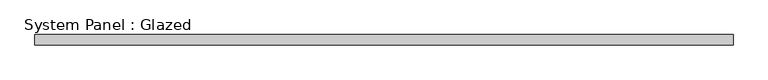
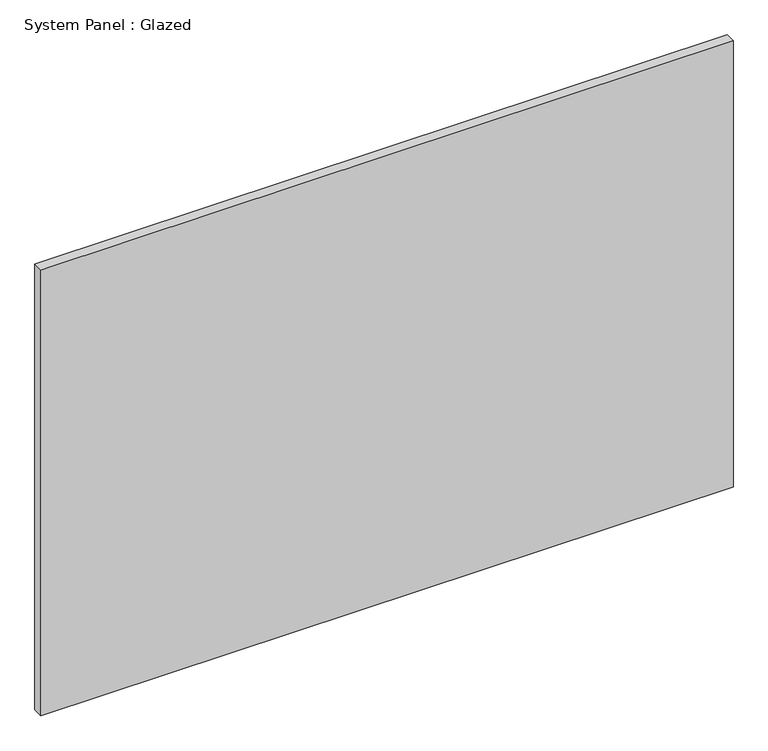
"""IFC4 building model written with IfcOpenShell, lengths in millimetres: plate geometry, System Panel : Glazed."""

import ifcopenshell
import ifcopenshell.guid

model = None  # the IFC model being written
_history = None  # IfcOwnerHistory: only IFC2X3 demands one
_inside = {}  # id of a spatial element -> (the spatial element, [elements in it])
_under = {}  # id of a project, library or spatial element -> (it, [spatial elements below it])
_declared = {}  # id of a project -> (the project, [libraries it declares])
_typed = {}  # id of a type object -> (the type object, [elements of that type])
_made_of = {}  # id of a material, layer set ... -> (it, [elements and type objects made of it])


def new_model(schema):
    """Start an empty IFC model of exactly this schema.

    Asked for "IFC4X3", IfcOpenShell would pick the latest addendum, in which some entities
    have other attributes; the version numbers below select the first issue.
    IFC2X3 requires an IfcOwnerHistory on every rooted entity: one is made here for all.
    """
    global model, _history
    if schema == "IFC4X3":
        model = ifcopenshell.file(schema_version=(4, 3, 0, 0))
    else:
        model = ifcopenshell.file(schema=schema)
    _inside.clear()
    _under.clear()
    _declared.clear()
    _typed.clear()
    _made_of.clear()
    _history = None
    if model.schema == "IFC2X3":
        org = make("IfcOrganization", Name="unknown")
        user = make(
            "IfcPersonAndOrganization",
            ThePerson=make("IfcPerson", FamilyName="unknown"),
            TheOrganization=org,
        )
        app = make(
            "IfcApplication",
            ApplicationDeveloper=org,
            Version="unknown",
            ApplicationFullName="unknown",
            ApplicationIdentifier="unknown",
        )
        _history = make(
            "IfcOwnerHistory",
            OwningUser=user,
            OwningApplication=app,
            ChangeAction="ADDED",
            CreationDate=0,
        )
    return model


def make(cls, **values):
    """One entity of the class cls with the attributes given. An attribute that is None is left unset."""
    return model.create_entity(
        cls, **{name: value for name, value in values.items() if value is not None}
    )


def rooted(cls, **values):
    """An entity with a GlobalId (a new one), such as an element, a storey or a relation."""
    return make(cls, GlobalId=ifcopenshell.guid.new(), OwnerHistory=_history, **values)


def si_unit(unit_type, name, prefix=None):
    """IfcSIUnit, for example si_unit("LENGTHUNIT", "METRE", prefix="MILLI")."""
    return make("IfcSIUnit", UnitType=unit_type, Prefix=prefix, Name=name)


def assignment(units):
    """IfcUnitAssignment: the units of a project."""
    return None if units is None else make("IfcUnitAssignment", Units=units)


def point(xyz):
    """IfcCartesianPoint."""
    return None if xyz is None else make("IfcCartesianPoint", Coordinates=xyz)


def direction(xyz):
    """IfcDirection."""
    return None if xyz is None else make("IfcDirection", DirectionRatios=xyz)


def frame(location, z_axis=None, x_axis=None):
    """IfcAxis2Placement3D, a coordinate frame: its origin and axes. An axis left out is left unset."""
    return make(
        "IfcAxis2Placement3D",
        Location=point(location),
        Axis=direction(z_axis),
        RefDirection=direction(x_axis),
    )


def origin():
    """The frame at (0, 0, 0) with its axes left unset."""
    return frame((0.0, 0.0, 0.0))


def origin_with_axes():
    """The frame at (0, 0, 0) with the z axis (0, 0, 1) and the x axis (1, 0, 0) written out."""
    return frame((0.0, 0.0, 0.0), z_axis=(0.0, 0.0, 1.0), x_axis=(1.0, 0.0, 0.0))


def place(relative_to, where):
    """IfcLocalPlacement: puts the frame where relative to a parent placement (None: the world)."""
    return make(
        "IfcLocalPlacement", PlacementRelTo=relative_to, RelativePlacement=where
    )


def context(
    kind, dimensions, precision=None, world=None, true_north=None, identifier=None
):
    """IfcGeometricRepresentationContext, for example the 3D "Model" context."""
    return make(
        "IfcGeometricRepresentationContext",
        ContextIdentifier=identifier,
        ContextType=kind,
        CoordinateSpaceDimension=dimensions,
        Precision=precision,
        WorldCoordinateSystem=world,
        TrueNorth=true_north,
    )


def project(units=None, contexts=None):
    """IfcProject with its units and contexts."""
    return rooted(
        "IfcProject",
        Name="project",
        RepresentationContexts=contexts,
        UnitsInContext=assignment(units),
    )


def spatial(cls, under=None, at=None, **own):
    """A site, building, storey or space (cls), placed at a placement, below another one or the project."""
    s = rooted(cls, ObjectPlacement=at, **own)
    if under is not None:
        _under.setdefault(under.id(), (under, []))[1].append(s)
    return s


def polyline(points):
    """IfcPolyline through the points."""
    return make("IfcPolyline", Points=[point(p) for p in points])


def outline(outer, holes=None, kind="AREA"):
    """IfcArbitraryClosedProfileDef: a profile drawn as a closed curve; with holes, ...WithVoids."""
    if holes is None:
        return make("IfcArbitraryClosedProfileDef", ProfileType=kind, OuterCurve=outer)
    return make(
        "IfcArbitraryProfileDefWithVoids",
        ProfileType=kind,
        OuterCurve=outer,
        InnerCurves=holes,
    )


def extrude(swept, where, along, depth):
    """IfcExtrudedAreaSolid: the profile swept, set in the frame where, extruded along a direction by depth."""
    return make(
        "IfcExtrudedAreaSolid",
        SweptArea=swept,
        Position=where,
        ExtrudedDirection=direction(along),
        Depth=depth,
    )


def shape(context_of_items, identifier, shape_type, items):
    """IfcShapeRepresentation: the items that make up one representation, for example the "Body"."""
    return make(
        "IfcShapeRepresentation",
        ContextOfItems=context_of_items,
        RepresentationIdentifier=identifier,
        RepresentationType=shape_type,
        Items=items,
    )


def source(mapping_origin, context_of_items, identifier, shape_type, items):
    """IfcRepresentationMap: a shape defined once, which mapped items show again and again."""
    return make(
        "IfcRepresentationMap",
        MappingOrigin=mapping_origin,
        MappedRepresentation=shape(context_of_items, identifier, shape_type, items),
    )


def transform(
    local_origin,
    x_axis=None,
    y_axis=None,
    z_axis=None,
    scale=None,
    scale2=None,
    scale3=None,
    uniform=True,
):
    """IfcCartesianTransformationOperator3D, or its non-uniform kind. x_axis, y_axis, z_axis: its Axis1, 2, 3."""
    if uniform:
        return make(
            "IfcCartesianTransformationOperator3D",
            Axis1=direction(x_axis),
            Axis2=direction(y_axis),
            LocalOrigin=point(local_origin),
            Scale=scale,
            Axis3=direction(z_axis),
        )
    return make(
        "IfcCartesianTransformationOperator3DnonUniform",
        Axis1=direction(x_axis),
        Axis2=direction(y_axis),
        LocalOrigin=point(local_origin),
        Scale=scale,
        Axis3=direction(z_axis),
        Scale2=scale2,
        Scale3=scale3,
    )


def mapped(mapping_source, mapping_target):
    """IfcMappedItem: shows the shape of a source again, moved by a transform."""
    return make(
        "IfcMappedItem", MappingSource=mapping_source, MappingTarget=mapping_target
    )


def made_of(thing, what):
    """Note that an element or type object is made of a material, layer set ...; save() writes the relation."""
    if what is not None:
        _made_of.setdefault(what.id(), (what, []))[1].append(thing)
    return thing


def element(
    cls,
    number,
    at=None,
    inside=None,
    cuts=None,
    type_object=None,
    material=None,
    context=None,
    identifier="Body",
    shape_type=None,
    held_by="IfcProductDefinitionShape",
    body=None,
    shapes=None,
    **own,
):
    """One element of the class cls, such as IfcWall. Its Tag is "e" and its number.

    at: its placement. inside: the storey or other place that contains it. cuts: it is an
    opening in that element (IfcRelVoidsElement). A single representation is given by context,
    identifier, shape_type and body (its items); several are given by shapes. held_by: the class
    of the entity that holds the representations. save() writes the other relations.
    """
    e = rooted(cls, Tag="e%d" % number, ObjectPlacement=at, **own)
    if body is not None:
        shapes = [shape(context, identifier, shape_type, body)]
    if shapes is not None:
        e.Representation = make(held_by, Representations=shapes)
    if inside is not None:
        _inside.setdefault(inside.id(), (inside, []))[1].append(e)
    if cuts is not None:
        rooted(
            "IfcRelVoidsElement", RelatingBuildingElement=cuts, RelatedOpeningElement=e
        )
    if type_object is not None:
        _typed.setdefault(type_object.id(), (type_object, []))[1].append(e)
    return made_of(e, material)


def aggregate(whole, parts):
    """IfcRelAggregates: a whole, such as a stair, and the parts it consists of."""
    return rooted("IfcRelAggregates", RelatingObject=whole, RelatedObjects=parts)


def save(model, path):
    """Write the relations noted so far, then the file.

    IfcRelAggregates (storeys below a building ...), IfcRelContainedInSpatialStructure (elements
    in a storey), IfcRelDefinesByType, IfcRelAssociatesMaterial and IfcRelDeclares: one each for
    every whole, place, type object, material and project.
    """
    for whole, parts in _under.values():
        aggregate(whole, parts)
    for where, things in _inside.values():
        rooted(
            "IfcRelContainedInSpatialStructure",
            RelatedElements=things,
            RelatingStructure=where,
        )
    for kind, things in _typed.values():
        rooted("IfcRelDefinesByType", RelatedObjects=things, RelatingType=kind)
    for what, things in _made_of.values():
        rooted("IfcRelAssociatesMaterial", RelatedObjects=things, RelatingMaterial=what)
    for by, libraries in _declared.values():
        rooted("IfcRelDeclares", RelatingContext=by, RelatedDefinitions=libraries)
    model.write(path)


def system_panel_glazed_1c1023c8(model_context):
    return source(origin(), model_context, "Body", "SweptSolid", [
        extrude(outline(polyline([(847.725, -44.45), (-847.725, -44.45), (-847.725, -19.05), (847.725, -19.05), (847.725, -44.45)])), origin_with_axes(), (0.0, 0.0, 1.0), 1155.7),
    ])


if __name__ == "__main__":
    model = new_model("IFC4")
    model_context = context("Model", 3, world=origin())
    ifc_project = project(units=[si_unit("LENGTHUNIT", "METRE", prefix="MILLI")], contexts=[model_context])
    site = spatial("IfcSite", under=ifc_project)
    building = spatial("IfcBuilding", under=site)
    placement = place(None, origin())
    system_panel_glazed_shape = system_panel_glazed_1c1023c8(model_context)
    element("IfcPlate", 1, ObjectType="System Panel : Glazed", at=placement, inside=building, context=model_context, shape_type="MappedRepresentation", body=[
        mapped(system_panel_glazed_shape, transform((0.0, 0.0, 0.0), x_axis=(1.0, 0.0, 0.0), y_axis=(0.0, 1.0, 0.0), z_axis=(0.0, 0.0, 1.0))),
    ])
    save(model, "model.ifc")
